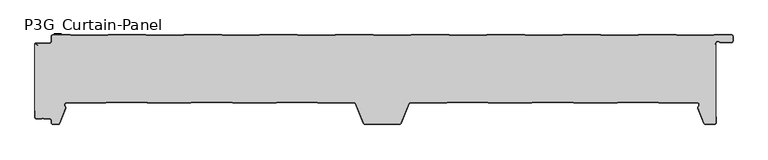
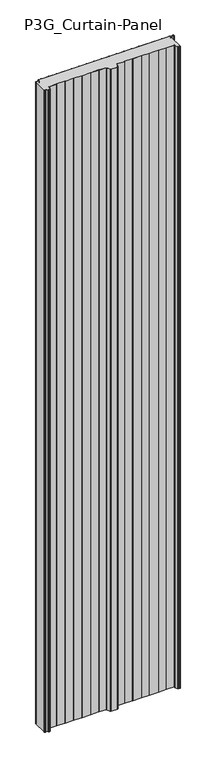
"""IFC4 building model written with IfcOpenShell, lengths in millimetres: plate geometry, P3G_Curtain-Panel : ACH_P3G_3-Rib-Roof-Panel_100M."""

import ifcopenshell
import ifcopenshell.guid

model = None  # the IFC model being written
_history = None  # IfcOwnerHistory: only IFC2X3 demands one
_inside = {}  # id of a spatial element -> (the spatial element, [elements in it])
_under = {}  # id of a project, library or spatial element -> (it, [spatial elements below it])
_declared = {}  # id of a project -> (the project, [libraries it declares])
_typed = {}  # id of a type object -> (the type object, [elements of that type])
_made_of = {}  # id of a material, layer set ... -> (it, [elements and type objects made of it])


def new_model(schema):
    """Start an empty IFC model of exactly this schema.

    Asked for "IFC4X3", IfcOpenShell would pick the latest addendum, in which some entities
    have other attributes; the version numbers below select the first issue.
    IFC2X3 requires an IfcOwnerHistory on every rooted entity: one is made here for all.
    """
    global model, _history
    if schema == "IFC4X3":
        model = ifcopenshell.file(schema_version=(4, 3, 0, 0))
    else:
        model = ifcopenshell.file(schema=schema)
    _inside.clear()
    _under.clear()
    _declared.clear()
    _typed.clear()
    _made_of.clear()
    _history = None
    if model.schema == "IFC2X3":
        org = make("IfcOrganization", Name="unknown")
        user = make(
            "IfcPersonAndOrganization",
            ThePerson=make("IfcPerson", FamilyName="unknown"),
            TheOrganization=org,
        )
        app = make(
            "IfcApplication",
            ApplicationDeveloper=org,
            Version="unknown",
            ApplicationFullName="unknown",
            ApplicationIdentifier="unknown",
        )
        _history = make(
            "IfcOwnerHistory",
            OwningUser=user,
            OwningApplication=app,
            ChangeAction="ADDED",
            CreationDate=0,
        )
    return model


def make(cls, **values):
    """One entity of the class cls with the attributes given. An attribute that is None is left unset."""
    return model.create_entity(
        cls, **{name: value for name, value in values.items() if value is not None}
    )


def rooted(cls, **values):
    """An entity with a GlobalId (a new one), such as an element, a storey or a relation."""
    return make(cls, GlobalId=ifcopenshell.guid.new(), OwnerHistory=_history, **values)


def si_unit(unit_type, name, prefix=None):
    """IfcSIUnit, for example si_unit("LENGTHUNIT", "METRE", prefix="MILLI")."""
    return make("IfcSIUnit", UnitType=unit_type, Prefix=prefix, Name=name)


def assignment(units):
    """IfcUnitAssignment: the units of a project."""
    return None if units is None else make("IfcUnitAssignment", Units=units)


def point(xyz):
    """IfcCartesianPoint."""
    return None if xyz is None else make("IfcCartesianPoint", Coordinates=xyz)


def direction(xyz):
    """IfcDirection."""
    return None if xyz is None else make("IfcDirection", DirectionRatios=xyz)


def frame(location, z_axis=None, x_axis=None):
    """IfcAxis2Placement3D, a coordinate frame: its origin and axes. An axis left out is left unset."""
    return make(
        "IfcAxis2Placement3D",
        Location=point(location),
        Axis=direction(z_axis),
        RefDirection=direction(x_axis),
    )


def frame_2d(location, x_axis=None):
    """IfcAxis2Placement2D, a coordinate frame in the plane: its origin and x axis."""
    return make(
        "IfcAxis2Placement2D", Location=point(location), RefDirection=direction(x_axis)
    )


def origin():
    """The frame at (0, 0, 0) with its axes left unset."""
    return frame((0.0, 0.0, 0.0))


def origin_with_axes():
    """The frame at (0, 0, 0) with the z axis (0, 0, 1) and the x axis (1, 0, 0) written out."""
    return frame((0.0, 0.0, 0.0), z_axis=(0.0, 0.0, 1.0), x_axis=(1.0, 0.0, 0.0))


def place(relative_to, where):
    """IfcLocalPlacement: puts the frame where relative to a parent placement (None: the world)."""
    return make(
        "IfcLocalPlacement", PlacementRelTo=relative_to, RelativePlacement=where
    )


def context(
    kind, dimensions, precision=None, world=None, true_north=None, identifier=None
):
    """IfcGeometricRepresentationContext, for example the 3D "Model" context."""
    return make(
        "IfcGeometricRepresentationContext",
        ContextIdentifier=identifier,
        ContextType=kind,
        CoordinateSpaceDimension=dimensions,
        Precision=precision,
        WorldCoordinateSystem=world,
        TrueNorth=true_north,
    )


def project(units=None, contexts=None):
    """IfcProject with its units and contexts."""
    return rooted(
        "IfcProject",
        Name="project",
        RepresentationContexts=contexts,
        UnitsInContext=assignment(units),
    )


def spatial(cls, under=None, at=None, **own):
    """A site, building, storey or space (cls), placed at a placement, below another one or the project."""
    s = rooted(cls, ObjectPlacement=at, **own)
    if under is not None:
        _under.setdefault(under.id(), (under, []))[1].append(s)
    return s


def polyline(points):
    """IfcPolyline through the points."""
    return make("IfcPolyline", Points=[point(p) for p in points])


def circle_curve(where, radius):
    """IfcCircle in the frame where."""
    return make("IfcCircle", Position=where, Radius=radius)


def trimmed(basis, trim1, trim2, sense, master):
    """IfcTrimmedCurve: the piece of a basis curve between two trims."""
    return make(
        "IfcTrimmedCurve",
        BasisCurve=basis,
        Trim1=trim1,
        Trim2=trim2,
        SenseAgreement=sense,
        MasterRepresentation=master,
    )


def segment(curve, same_sense, transition):
    """IfcCompositeCurveSegment."""
    return make(
        "IfcCompositeCurveSegment",
        Transition=transition,
        SameSense=same_sense,
        ParentCurve=curve,
    )


def composite_curve(segments, self_intersect=None):
    """IfcCompositeCurve: segments joined end to end."""
    return make("IfcCompositeCurve", Segments=segments, SelfIntersect=self_intersect)


def outline(outer, holes=None, kind="AREA"):
    """IfcArbitraryClosedProfileDef: a profile drawn as a closed curve; with holes, ...WithVoids."""
    if holes is None:
        return make("IfcArbitraryClosedProfileDef", ProfileType=kind, OuterCurve=outer)
    return make(
        "IfcArbitraryProfileDefWithVoids",
        ProfileType=kind,
        OuterCurve=outer,
        InnerCurves=holes,
    )


def extrude(swept, where, along, depth):
    """IfcExtrudedAreaSolid: the profile swept, set in the frame where, extruded along a direction by depth."""
    return make(
        "IfcExtrudedAreaSolid",
        SweptArea=swept,
        Position=where,
        ExtrudedDirection=direction(along),
        Depth=depth,
    )


def shape(context_of_items, identifier, shape_type, items):
    """IfcShapeRepresentation: the items that make up one representation, for example the "Body"."""
    return make(
        "IfcShapeRepresentation",
        ContextOfItems=context_of_items,
        RepresentationIdentifier=identifier,
        RepresentationType=shape_type,
        Items=items,
    )


def source(mapping_origin, context_of_items, identifier, shape_type, items):
    """IfcRepresentationMap: a shape defined once, which mapped items show again and again."""
    return make(
        "IfcRepresentationMap",
        MappingOrigin=mapping_origin,
        MappedRepresentation=shape(context_of_items, identifier, shape_type, items),
    )


def transform(
    local_origin,
    x_axis=None,
    y_axis=None,
    z_axis=None,
    scale=None,
    scale2=None,
    scale3=None,
    uniform=True,
):
    """IfcCartesianTransformationOperator3D, or its non-uniform kind. x_axis, y_axis, z_axis: its Axis1, 2, 3."""
    if uniform:
        return make(
            "IfcCartesianTransformationOperator3D",
            Axis1=direction(x_axis),
            Axis2=direction(y_axis),
            LocalOrigin=point(local_origin),
            Scale=scale,
            Axis3=direction(z_axis),
        )
    return make(
        "IfcCartesianTransformationOperator3DnonUniform",
        Axis1=direction(x_axis),
        Axis2=direction(y_axis),
        LocalOrigin=point(local_origin),
        Scale=scale,
        Axis3=direction(z_axis),
        Scale2=scale2,
        Scale3=scale3,
    )


def mapped(mapping_source, mapping_target):
    """IfcMappedItem: shows the shape of a source again, moved by a transform."""
    return make(
        "IfcMappedItem", MappingSource=mapping_source, MappingTarget=mapping_target
    )


def made_of(thing, what):
    """Note that an element or type object is made of a material, layer set ...; save() writes the relation."""
    if what is not None:
        _made_of.setdefault(what.id(), (what, []))[1].append(thing)
    return thing


def element(
    cls,
    number,
    at=None,
    inside=None,
    cuts=None,
    type_object=None,
    material=None,
    context=None,
    identifier="Body",
    shape_type=None,
    held_by="IfcProductDefinitionShape",
    body=None,
    shapes=None,
    **own,
):
    """One element of the class cls, such as IfcWall. Its Tag is "e" and its number.

    at: its placement. inside: the storey or other place that contains it. cuts: it is an
    opening in that element (IfcRelVoidsElement). A single representation is given by context,
    identifier, shape_type and body (its items); several are given by shapes. held_by: the class
    of the entity that holds the representations. save() writes the other relations.
    """
    e = rooted(cls, Tag="e%d" % number, ObjectPlacement=at, **own)
    if body is not None:
        shapes = [shape(context, identifier, shape_type, body)]
    if shapes is not None:
        e.Representation = make(held_by, Representations=shapes)
    if inside is not None:
        _inside.setdefault(inside.id(), (inside, []))[1].append(e)
    if cuts is not None:
        rooted(
            "IfcRelVoidsElement", RelatingBuildingElement=cuts, RelatedOpeningElement=e
        )
    if type_object is not None:
        _typed.setdefault(type_object.id(), (type_object, []))[1].append(e)
    return made_of(e, material)


def aggregate(whole, parts):
    """IfcRelAggregates: a whole, such as a stair, and the parts it consists of."""
    return rooted("IfcRelAggregates", RelatingObject=whole, RelatedObjects=parts)


def save(model, path):
    """Write the relations noted so far, then the file.

    IfcRelAggregates (storeys below a building ...), IfcRelContainedInSpatialStructure (elements
    in a storey), IfcRelDefinesByType, IfcRelAssociatesMaterial and IfcRelDeclares: one each for
    every whole, place, type object, material and project.
    """
    for whole, parts in _under.values():
        aggregate(whole, parts)
    for where, things in _inside.values():
        rooted(
            "IfcRelContainedInSpatialStructure",
            RelatedElements=things,
            RelatingStructure=where,
        )
    for kind, things in _typed.values():
        rooted("IfcRelDefinesByType", RelatedObjects=things, RelatingType=kind)
    for what, things in _made_of.values():
        rooted("IfcRelAssociatesMaterial", RelatedObjects=things, RelatingMaterial=what)
    for by, libraries in _declared.values():
        rooted("IfcRelDeclares", RelatingContext=by, RelatedDefinitions=libraries)
    model.write(path)


def p3g_curtain_panel_d6166cbf(model_context):
    return source(origin(), model_context, "Body", "SweptSolid", [
        extrude(outline(composite_curve([segment(trimmed(circle_curve(frame_2d((-13.0, -498.996875)), 1.0), [point((-13.8660254, -499.496875))], [point((-13.0, -499.996875))], True, "CARTESIAN"), True, "CONTINUOUS"), segment(polyline([(-13.0, -499.996875), (-111.18, -499.996875), (-111.18, -499.196875), (-121.5, -499.196875)]), True, "CONTINUOUS"), segment(trimmed(circle_curve(frame_2d((-121.5, -497.496875)), 1.7), [point((-121.5, -499.196875))], [point((-123.2, -497.496875))], False, "CARTESIAN"), True, "CONTINUOUS"), segment(polyline([(-123.2, -497.496875), (-123.2, -490.3942416)]), True, "CONTINUOUS"), segment(trimmed(circle_curve(frame_2d((-124.5, -488.496875)), 2.3), [point((-123.2, -490.3942416))], [point((-123.2, -486.5995084))], True, "CARTESIAN"), True, "CONTINUOUS"), segment(polyline([(-123.2, -486.5995084), (-123.2, -477.996875)]), True, "CONTINUOUS"), segment(trimmed(circle_curve(frame_2d((-126.0, -477.996875)), 2.8), [point((-123.2, -477.996875))], [point((-126.0, -475.196875))], True, "CARTESIAN"), True, "CONTINUOUS"), segment(polyline([(-126.0, -475.196875), (-129.5, -475.196875)]), True, "CONTINUOUS"), segment(trimmed(circle_curve(frame_2d((-129.5, -473.496875)), 1.7), [point((-129.5, -475.196875))], [point((-131.2, -473.496875))], False, "CARTESIAN"), True, "CONTINUOUS"), segment(polyline([(-131.2, -473.496875), (-131.2, -466.0601463)]), True, "CONTINUOUS"), segment(trimmed(circle_curve(frame_2d((-129.5, -466.0601463)), 1.7), [point((-131.2, -466.0601463))], [point((-130.1368312, -464.4839337))], False, "CARTESIAN"), True, "CONTINUOUS"), segment(polyline([(-130.1368312, -464.4839337), (-107.838756, -455.4749266)]), True, "CONTINUOUS"), segment(trimmed(circle_curve(frame_2d((-107.2019248, -457.0511391)), 1.7), [point((-107.838756, -455.4749266))], [point((-105.9566976, -455.8938106))], False, "CARTESIAN"), True, "CONTINUOUS"), segment(trimmed(circle_curve(frame_2d((-103.1, -453.2387629)), 3.9), [point((-105.9566976, -455.8938106))], [point((-99.2, -453.2387629))], True, "CARTESIAN"), True, "CONTINUOUS"), segment(polyline([(-99.2, -453.2387629), (-99.2, -396.299675), (-98.6, -395.3011073), (-98.6, -335.8523119), (-99.2, -334.8548119), (-99.2, -271.2989381), (-98.6, -270.3014381), (-98.6, -210.8523119), (-99.2, -209.8548119), (-99.2, -146.2989381), (-98.6, -145.3014381), (-98.6, -85.8523119), (-99.2, -84.8548119), (-99.2, -31.8104547)]), True, "CONTINUOUS"), segment(trimmed(circle_curve(frame_2d((-102.0, -31.8104547)), 2.8), [point((-99.2, -31.8104547))], [point((-100.9511015, -29.2143399))], True, "CARTESIAN"), True, "CONTINUOUS"), segment(polyline([(-100.9511015, -29.2143399), (-129.8241345, -17.5488774)]), True, "CONTINUOUS"), segment(trimmed(circle_curve(frame_2d((-129.0, -15.5090729)), 2.2), [point((-129.8241345, -17.5488774))], [point((-131.2, -15.5090729))], False, "CARTESIAN"), True, "CONTINUOUS"), segment(polyline([(-131.2, -15.5090729), (-131.2, 34.4353229)]), True, "CONTINUOUS"), segment(trimmed(circle_curve(frame_2d((-129.0, 34.4353229)), 2.2), [point((-131.2, 34.4353229))], [point((-129.8241345, 36.4751274))], False, "CARTESIAN"), True, "CONTINUOUS"), segment(polyline([(-129.8241345, 36.4751274), (-100.9511015, 48.1405899)]), True, "CONTINUOUS"), segment(trimmed(circle_curve(frame_2d((-102.0, 50.7367047)), 2.8), [point((-100.9511015, 48.1405899))], [point((-99.2, 50.7367047))], True, "CARTESIAN"), True, "CONTINUOUS"), segment(polyline([(-99.2, 50.7367047), (-99.2, 103.780325), (-98.6, 104.7788927), (-98.6, 164.2273573), (-99.2, 165.225925), (-99.2, 228.7810108), (-98.6, 229.7795785), (-98.6, 289.2266715), (-99.2, 290.2252392), (-99.2, 353.7810619), (-98.6, 354.7785619), (-98.6, 414.2276881), (-99.2, 415.2251881), (-99.2, 470.7880129)]), True, "CONTINUOUS"), segment(trimmed(circle_curve(frame_2d((-103.1, 470.7880129)), 3.9), [point((-99.2, 470.7880129))], [point((-105.9566976, 473.4430606))], True, "CARTESIAN"), True, "CONTINUOUS"), segment(trimmed(circle_curve(frame_2d((-107.2019248, 474.6003891)), 1.7), [point((-105.9566976, 473.4430606))], [point((-107.838756, 473.0241766))], False, "CARTESIAN"), True, "CONTINUOUS"), segment(polyline([(-107.838756, 473.0241766), (-130.1368312, 482.0331837)]), True, "CONTINUOUS"), segment(trimmed(circle_curve(frame_2d((-129.5, 483.6093963)), 1.7), [point((-130.1368312, 482.0331837))], [point((-131.2, 483.6093963))], False, "CARTESIAN"), True, "CONTINUOUS"), segment(polyline([(-131.2, 483.6093963), (-131.2, 496.503125)]), True, "CONTINUOUS"), segment(trimmed(circle_curve(frame_2d((-129.5, 496.503125)), 1.7), [point((-131.2, 496.503125))], [point((-129.5, 498.203125))], False, "CARTESIAN"), True, "CONTINUOUS"), segment(polyline([(-129.5, 498.203125), (-13.391322, 498.203125), (-14.3550504, 497.8523566)]), True, "CONTINUOUS"), segment(trimmed(circle_curve(frame_2d((-13.5, 495.503125)), 2.5), [point((-14.3550504, 497.8523566))], [point((-16.0, 495.503125))], True, "CARTESIAN"), True, "CONTINUOUS"), segment(polyline([(-16.0, 495.503125), (-16.0, 490.503125), (-15.2, 490.503125), (-15.2, 495.503125)]), True, "CONTINUOUS"), segment(trimmed(circle_curve(frame_2d((-13.5, 495.503125)), 1.7), [point((-15.2, 495.503125))], [point((-14.0814342, 497.1006025))], False, "CARTESIAN"), True, "CONTINUOUS"), segment(polyline([(-14.0814342, 497.1006025), (-12.0293134, 497.8475134)]), True, "CONTINUOUS"), segment(trimmed(circle_curve(frame_2d((-13.5, 501.8881916)), 4.3), [point((-12.0293134, 497.8475134))], [point((-10.275, 504.7323743))], True, "CARTESIAN"), True, "CONTINUOUS"), segment(trimmed(circle_curve(frame_2d((-9.0, 505.8568186)), 1.7), [point((-10.275, 504.7323743))], [point((-10.7, 505.8568186))], False, "CARTESIAN"), True, "CONTINUOUS"), segment(polyline([(-10.7, 505.8568186), (-10.7, 521.503125)]), True, "CONTINUOUS"), segment(trimmed(circle_curve(frame_2d((-9.0, 521.503125)), 1.7), [point((-10.7, 521.503125))], [point((-9.0, 523.203125))], False, "CARTESIAN"), True, "CONTINUOUS"), segment(polyline([(-9.0, 523.203125), (-2.5, 523.203125)]), True, "CONTINUOUS"), segment(trimmed(circle_curve(frame_2d((-2.5, 521.503125)), 1.7), [point((-2.5, 523.203125))], [point((-0.8, 521.503125))], False, "CARTESIAN"), True, "CONTINUOUS"), segment(polyline([(-0.8, 521.503125), (-0.8, 496.4476092), (-1.4, 495.4501092), (-1.4, 441.4461408), (-0.8, 440.4486408), (-0.8, 385.3376092), (-1.4, 384.3401092), (-1.4, 330.3361408), (-0.8, 329.3386408), (-0.8, 274.2276092), (-1.4, 273.2301092), (-1.4, 219.2261408), (-0.8, 218.2286408), (-0.8, 163.1176092), (-1.4, 162.1201092), (-1.4, 108.1161408), (-0.8, 107.1186408), (-0.8, 52.0076092), (-1.4, 51.0101092), (-1.4, -2.9938592), (-0.8, -3.9913592), (-0.8, -59.1023908), (-1.4, -60.0998908), (-1.4, -114.1038592), (-0.8, -115.1013592), (-0.8, -170.2123908), (-1.4, -171.2098908), (-1.4, -225.2138592), (-0.8, -226.2113592), (-0.8, -281.3223908), (-1.4, -282.3198908), (-1.4, -336.3238592), (-0.8, -337.3213592), (-0.8, -392.4323908), (-1.4, -393.4298908), (-1.4, -447.4338592), (-0.8, -448.4313592), (-0.8, -473.496875)]), True, "CONTINUOUS"), segment(trimmed(circle_curve(frame_2d((-2.5, -473.496875)), 1.7), [point((-0.8, -473.496875))], [point((-2.5, -475.196875))], False, "CARTESIAN"), True, "CONTINUOUS"), segment(polyline([(-2.5, -475.196875), (-10.0, -475.196875)]), True, "CONTINUOUS"), segment(trimmed(circle_curve(frame_2d((-10.0, -477.996875)), 2.8), [point((-10.0, -475.196875))], [point((-12.8, -477.996875))], True, "CARTESIAN"), True, "CONTINUOUS"), segment(polyline([(-12.8, -477.996875), (-12.8, -497.8772598)]), True, "CONTINUOUS"), segment(trimmed(circle_curve(frame_2d((-13.3, -497.8772598)), 0.5), [point((-12.8, -497.8772598))], [point((-13.7330127, -498.1272598))], False, "CARTESIAN"), True, "CONTINUOUS"), segment(polyline([(-13.7330127, -498.1272598), (-15.4826062, -495.096875), (-16.1754265, -495.496875), (-13.8660254, -499.496875)]), True, "CONTINUOUS")], self_intersect=False)), frame((0.0, 0.0, 5000.0), z_axis=(0.0, 0.0, -1.0), x_axis=(0.0, 1.0, 0.0)), (0.0, 0.0, 1.0), 5000.0),
        extrude(outline(composite_curve([segment(trimmed(circle_curve(frame_2d((-478.0, -10.0)), 2.0), [point((-478.0, -12.0))], [point((-476.0, -10.0))], True, "CARTESIAN"), True, "CONTINUOUS"), segment(polyline([(-476.0, -10.0), (-476.0, -2.5)]), True, "CONTINUOUS"), segment(trimmed(circle_curve(frame_2d((-473.5, -2.5)), 2.5), [point((-476.0, -2.5))], [point((-473.5, 0.0))], False, "CARTESIAN"), True, "CONTINUOUS"), segment(polyline([(-473.5, 0.0), (-448.2124211, 0.0), (-447.2149211, -0.6), (-393.6550789, -0.6), (-392.6575789, 0.0), (-337.1024211, 0.0), (-336.1049211, -0.6), (-282.5450789, -0.6), (-281.5475789, 0.0), (-225.9924211, 0.0), (-224.9949211, -0.6), (-171.4350789, -0.6), (-170.4375789, 0.0), (-114.8824211, 0.0), (-113.8849211, -0.6), (-60.3250789, -0.6), (-59.3275789, 0.0), (-3.7724211, 0.0), (-2.7749211, -0.6), (50.7849211, -0.6), (51.7824211, 0.0), (107.3375789, 0.0), (108.3350789, -0.6), (161.8949211, -0.6), (162.8924211, 0.0), (218.4475789, 0.0), (219.4450789, -0.6), (273.0049211, -0.6), (274.0024211, 0.0), (329.5575789, 0.0), (330.5550789, -0.6), (384.1149211, -0.6), (385.1124211, 0.0), (440.6675789, 0.0), (441.6650789, -0.6), (495.2249211, -0.6), (496.2224211, 0.0), (521.5, 0.0)]), True, "CONTINUOUS"), segment(trimmed(circle_curve(frame_2d((521.5, -2.5)), 2.5), [point((521.5, 0.0))], [point((524.0, -2.5))], False, "CARTESIAN"), True, "CONTINUOUS"), segment(polyline([(524.0, -2.5), (524.0, -9.0)]), True, "CONTINUOUS"), segment(trimmed(circle_curve(frame_2d((521.5, -9.0)), 2.5), [point((524.0, -9.0))], [point((521.5, -11.5))], False, "CARTESIAN"), True, "CONTINUOUS"), segment(polyline([(521.5, -11.5), (505.8536936, -11.5)]), True, "CONTINUOUS"), segment(trimmed(circle_curve(frame_2d((505.8536936, -9.0)), 2.5), [point((505.8536936, -11.5))], [point((504.200099, -10.875))], False, "CARTESIAN"), True, "CONTINUOUS"), segment(trimmed(circle_curve(frame_2d((501.8850666, -13.5)), 3.5), [point((504.200099, -10.875))], [point((498.5961425, -12.3029295))], True, "CARTESIAN"), True, "CONTINUOUS"), segment(polyline([(498.5961425, -12.3029295), (497.8492316, -14.3550504)]), True, "CONTINUOUS"), segment(trimmed(circle_curve(frame_2d((495.5, -13.5)), 2.5), [point((497.8492316, -14.3550504))], [point((495.5, -16.0))], False, "CARTESIAN"), True, "CONTINUOUS"), segment(polyline([(495.5, -16.0), (490.5, -16.0), (490.5, -15.2), (495.5, -15.2)]), True, "CONTINUOUS"), segment(trimmed(circle_curve(frame_2d((495.5, -13.5)), 1.7), [point((495.5, -15.2))], [point((497.0974775, -14.0814342))], True, "CARTESIAN"), True, "CONTINUOUS"), segment(polyline([(497.0974775, -14.0814342), (497.8443884, -12.0293134)]), True, "CONTINUOUS"), segment(trimmed(circle_curve(frame_2d((501.8850666, -13.5)), 4.3), [point((497.8443884, -12.0293134))], [point((504.7292493, -10.275))], False, "CARTESIAN"), True, "CONTINUOUS"), segment(trimmed(circle_curve(frame_2d((505.8536936, -9.0)), 1.7), [point((504.7292493, -10.275))], [point((505.8536936, -10.7))], True, "CARTESIAN"), True, "CONTINUOUS"), segment(polyline([(505.8536936, -10.7), (521.5, -10.7)]), True, "CONTINUOUS"), segment(trimmed(circle_curve(frame_2d((521.5, -9.0)), 1.7), [point((521.5, -10.7))], [point((523.2, -9.0))], True, "CARTESIAN"), True, "CONTINUOUS"), segment(polyline([(523.2, -9.0), (523.2, -2.5)]), True, "CONTINUOUS"), segment(trimmed(circle_curve(frame_2d((521.5, -2.5)), 1.7), [point((523.2, -2.5))], [point((521.5, -0.8))], True, "CARTESIAN"), True, "CONTINUOUS"), segment(polyline([(521.5, -0.8), (496.4444842, -0.8), (495.4469842, -1.4), (441.4430158, -1.4), (440.4455158, -0.8), (385.3344842, -0.8), (384.3369842, -1.4), (330.3330158, -1.4), (329.3355158, -0.8), (274.2244842, -0.8), (273.2269842, -1.4), (219.2230158, -1.4), (218.2255158, -0.8), (163.1144842, -0.8), (162.1169842, -1.4), (108.1130158, -1.4), (107.1155158, -0.8), (52.0044842, -0.8), (51.0069842, -1.4), (-2.9969842, -1.4), (-3.9944842, -0.8), (-59.1055158, -0.8), (-60.1030158, -1.4), (-114.1069842, -1.4), (-115.1044842, -0.8), (-170.2155158, -0.8), (-171.2130158, -1.4), (-225.2169842, -1.4), (-226.2144842, -0.8), (-281.3255158, -0.8), (-282.3230158, -1.4), (-336.3269842, -1.4), (-337.3244842, -0.8), (-392.4355158, -0.8), (-393.4330158, -1.4), (-447.4369842, -1.4), (-448.4344842, -0.8), (-473.5, -0.8)]), True, "CONTINUOUS"), segment(trimmed(circle_curve(frame_2d((-473.5, -2.5)), 1.7), [point((-473.5, -0.8))], [point((-475.2, -2.5))], True, "CARTESIAN"), True, "CONTINUOUS"), segment(polyline([(-475.2, -2.5), (-475.2, -10.0)]), True, "CONTINUOUS"), segment(trimmed(circle_curve(frame_2d((-478.0, -10.0)), 2.8), [point((-475.2, -10.0))], [point((-478.0, -12.8))], False, "CARTESIAN"), True, "CONTINUOUS"), segment(polyline([(-478.0, -12.8), (-497.8803848, -12.8)]), True, "CONTINUOUS"), segment(trimmed(circle_curve(frame_2d((-497.8803848, -13.3)), 0.5), [point((-497.8803848, -12.8))], [point((-498.1303848, -13.7330127))], True, "CARTESIAN"), True, "CONTINUOUS"), segment(polyline([(-498.1303848, -13.7330127), (-495.1, -15.4826062), (-495.5, -16.1754265), (-499.5, -13.8660254)]), True, "CONTINUOUS"), segment(trimmed(circle_curve(frame_2d((-499.0, -13.0)), 1.0), [point((-499.5, -13.8660254))], [point((-499.0, -12.0))], False, "CARTESIAN"), True, "CONTINUOUS"), segment(polyline([(-499.0, -12.0), (-478.0, -12.0)]), True, "CONTINUOUS")], self_intersect=False)), origin_with_axes(), (0.0, 0.0, 1.0), 5000.0),
        extrude(outline(composite_curve([segment(polyline([(-500.0, -121.5), (-500.0, -111.18), (-499.2, -111.18), (-499.2, -121.5)]), True, "CONTINUOUS"), segment(trimmed(circle_curve(frame_2d((-497.5, -121.5)), 1.7), [point((-499.2, -121.5))], [point((-497.5, -123.2))], True, "CARTESIAN"), True, "CONTINUOUS"), segment(polyline([(-497.5, -123.2), (-490.3973666, -123.2)]), True, "CONTINUOUS"), segment(trimmed(circle_curve(frame_2d((-488.5, -124.5)), 2.3), [point((-490.3973666, -123.2))], [point((-486.6026334, -123.2))], False, "CARTESIAN"), True, "CONTINUOUS"), segment(polyline([(-486.6026334, -123.2), (-478.0, -123.2)]), True, "CONTINUOUS"), segment(trimmed(circle_curve(frame_2d((-478.0, -126.0)), 2.8), [point((-478.0, -123.2))], [point((-475.2, -126.0))], False, "CARTESIAN"), True, "CONTINUOUS"), segment(polyline([(-475.2, -126.0), (-475.2, -129.5)]), True, "CONTINUOUS"), segment(trimmed(circle_curve(frame_2d((-473.5, -129.5)), 1.7), [point((-475.2, -129.5))], [point((-473.5, -131.2))], True, "CARTESIAN"), True, "CONTINUOUS"), segment(polyline([(-473.5, -131.2), (-466.0632713, -131.2)]), True, "CONTINUOUS"), segment(trimmed(circle_curve(frame_2d((-466.0632713, -129.5)), 1.7), [point((-466.0632713, -131.2))], [point((-464.4870587, -130.1368312))], True, "CARTESIAN"), True, "CONTINUOUS"), segment(polyline([(-464.4870587, -130.1368312), (-455.4780516, -107.838756)]), True, "CONTINUOUS"), segment(trimmed(circle_curve(frame_2d((-457.0542641, -107.2019248)), 1.7), [point((-455.4780516, -107.838756))], [point((-455.8969356, -105.9566976))], True, "CARTESIAN"), True, "CONTINUOUS"), segment(trimmed(circle_curve(frame_2d((-453.2418879, -103.1)), 3.9), [point((-455.8969356, -105.9566976))], [point((-453.2418879, -99.2))], False, "CARTESIAN"), True, "CONTINUOUS"), segment(polyline([(-453.2418879, -99.2), (-396.3028, -99.2), (-395.3042323, -98.6), (-335.8554369, -98.6), (-334.8579369, -99.2), (-271.3020631, -99.2), (-270.3045631, -98.6), (-210.8554369, -98.6), (-209.8579369, -99.2), (-146.3020631, -99.2), (-145.3045631, -98.6), (-85.8554369, -98.6), (-84.8579369, -99.2), (-31.8135797, -99.2)]), True, "CONTINUOUS"), segment(trimmed(circle_curve(frame_2d((-31.8135797, -102.0)), 2.8), [point((-31.8135797, -99.2))], [point((-29.2174649, -100.9511015))], False, "CARTESIAN"), True, "CONTINUOUS"), segment(polyline([(-29.2174649, -100.9511015), (-17.5520024, -129.8241345)]), True, "CONTINUOUS"), segment(trimmed(circle_curve(frame_2d((-15.5121979, -129.0)), 2.2), [point((-17.5520024, -129.8241345))], [point((-15.5121979, -131.2))], True, "CARTESIAN"), True, "CONTINUOUS"), segment(polyline([(-15.5121979, -131.2), (34.4321979, -131.2)]), True, "CONTINUOUS"), segment(trimmed(circle_curve(frame_2d((34.4321979, -129.0)), 2.2), [point((34.4321979, -131.2))], [point((36.4720024, -129.8241345))], True, "CARTESIAN"), True, "CONTINUOUS"), segment(polyline([(36.4720024, -129.8241345), (48.1374649, -100.9511015)]), True, "CONTINUOUS"), segment(trimmed(circle_curve(frame_2d((50.7335797, -102.0)), 2.8), [point((48.1374649, -100.9511015))], [point((50.7335797, -99.2))], False, "CARTESIAN"), True, "CONTINUOUS"), segment(polyline([(50.7335797, -99.2), (103.7772, -99.2), (104.7757677, -98.6), (164.2242323, -98.6), (165.2228, -99.2), (228.7778858, -99.2), (229.7764535, -98.6), (289.2235465, -98.6), (290.2221142, -99.2), (353.7779369, -99.2), (354.7754369, -98.6), (414.2245631, -98.6), (415.2220631, -99.2), (470.7848879, -99.2)]), True, "CONTINUOUS"), segment(trimmed(circle_curve(frame_2d((470.7848879, -103.1)), 3.9), [point((470.7848879, -99.2))], [point((473.4399356, -105.9566976))], False, "CARTESIAN"), True, "CONTINUOUS"), segment(trimmed(circle_curve(frame_2d((474.5972641, -107.2019248)), 1.7), [point((473.4399356, -105.9566976))], [point((473.0210516, -107.838756))], True, "CARTESIAN"), True, "CONTINUOUS"), segment(polyline([(473.0210516, -107.838756), (482.0300587, -130.1368312)]), True, "CONTINUOUS"), segment(trimmed(circle_curve(frame_2d((483.6062713, -129.5)), 1.7), [point((482.0300587, -130.1368312))], [point((483.6062713, -131.2))], True, "CARTESIAN"), True, "CONTINUOUS"), segment(polyline([(483.6062713, -131.2), (496.5, -131.2)]), True, "CONTINUOUS"), segment(trimmed(circle_curve(frame_2d((496.5, -129.5)), 1.7), [point((496.5, -131.2))], [point((498.2, -129.5))], True, "CARTESIAN"), True, "CONTINUOUS"), segment(polyline([(498.2, -129.5), (498.2, -121.0), (499.0, -121.0), (499.0, -129.5)]), True, "CONTINUOUS"), segment(trimmed(circle_curve(frame_2d((496.5, -129.5)), 2.5), [point((499.0, -129.5))], [point((496.5, -132.0))], False, "CARTESIAN"), True, "CONTINUOUS"), segment(polyline([(496.5, -132.0), (483.6062713, -132.0)]), True, "CONTINUOUS"), segment(trimmed(circle_curve(frame_2d((483.6062713, -129.5)), 2.5), [point((483.6062713, -132.0))], [point((481.2883117, -130.4365165))], False, "CARTESIAN"), True, "CONTINUOUS"), segment(polyline([(481.2883117, -130.4365165), (472.2793045, -108.1384413)]), True, "CONTINUOUS"), segment(trimmed(circle_curve(frame_2d((474.5972641, -107.2019248)), 2.5), [point((472.2793045, -108.1384413))], [point((472.8953104, -105.3707084))], False, "CARTESIAN"), True, "CONTINUOUS"), segment(trimmed(circle_curve(frame_2d((470.7848879, -103.1)), 3.1), [point((472.8953104, -105.3707084))], [point((470.7848879, -100.0))], True, "CARTESIAN"), True, "CONTINUOUS"), segment(polyline([(470.7848879, -100.0), (415.0, -100.0), (414.0025, -99.4), (354.9975, -99.4), (354.0, -100.0), (290.0002546, -100.0), (289.0016869, -99.4), (229.9983131, -99.4), (228.9997454, -100.0), (165.0009404, -100.0), (164.0023727, -99.4), (104.9976273, -99.4), (103.9990596, -100.0), (50.7335797, -100.0)]), True, "CONTINUOUS"), segment(trimmed(circle_curve(frame_2d((50.7335797, -102.0)), 2.0), [point((50.7335797, -100.0))], [point((48.879212, -101.2507868))], True, "CARTESIAN"), True, "CONTINUOUS"), segment(polyline([(48.879212, -101.2507868), (37.2137494, -130.1238198)]), True, "CONTINUOUS"), segment(trimmed(circle_curve(frame_2d((34.4321979, -129.0)), 3.0), [point((37.2137494, -130.1238198))], [point((34.4321979, -132.0))], False, "CARTESIAN"), True, "CONTINUOUS"), segment(polyline([(34.4321979, -132.0), (-15.5121979, -132.0)]), True, "CONTINUOUS"), segment(trimmed(circle_curve(frame_2d((-15.5121979, -129.0)), 3.0), [point((-15.5121979, -132.0))], [point((-18.2937494, -130.1238198))], False, "CARTESIAN"), True, "CONTINUOUS"), segment(polyline([(-18.2937494, -130.1238198), (-29.959212, -101.2507868)]), True, "CONTINUOUS"), segment(trimmed(circle_curve(frame_2d((-31.8135797, -102.0)), 2.0), [point((-29.959212, -101.2507868))], [point((-31.8135797, -100.0))], True, "CARTESIAN"), True, "CONTINUOUS"), segment(polyline([(-31.8135797, -100.0), (-85.08, -100.0), (-86.0775, -99.4), (-145.0825, -99.4), (-146.08, -100.0), (-210.08, -100.0), (-211.0775, -99.4), (-270.0825, -99.4), (-271.08, -100.0), (-335.08, -100.0), (-336.0775, -99.4), (-395.0823727, -99.4), (-396.0809404, -100.0), (-453.2418879, -100.0)]), True, "CONTINUOUS"), segment(trimmed(circle_curve(frame_2d((-453.2418879, -103.1)), 3.1), [point((-453.2418879, -100.0))], [point((-455.3523104, -105.3707084))], True, "CARTESIAN"), True, "CONTINUOUS"), segment(trimmed(circle_curve(frame_2d((-457.0542641, -107.2019248)), 2.5), [point((-455.3523104, -105.3707084))], [point((-454.7363045, -108.1384413))], False, "CARTESIAN"), True, "CONTINUOUS"), segment(polyline([(-454.7363045, -108.1384413), (-463.7453117, -130.4365165)]), True, "CONTINUOUS"), segment(trimmed(circle_curve(frame_2d((-466.0632713, -129.5)), 2.5), [point((-463.7453117, -130.4365165))], [point((-466.0632713, -132.0))], False, "CARTESIAN"), True, "CONTINUOUS"), segment(polyline([(-466.0632713, -132.0), (-473.5, -132.0)]), True, "CONTINUOUS"), segment(trimmed(circle_curve(frame_2d((-473.5, -129.5)), 2.5), [point((-473.5, -132.0))], [point((-476.0, -129.5))], False, "CARTESIAN"), True, "CONTINUOUS"), segment(polyline([(-476.0, -129.5), (-476.0, -126.0)]), True, "CONTINUOUS"), segment(trimmed(circle_curve(frame_2d((-478.0, -126.0)), 2.0), [point((-476.0, -126.0))], [point((-478.0, -124.0))], True, "CARTESIAN"), True, "CONTINUOUS"), segment(polyline([(-478.0, -124.0), (-486.263932, -124.0)]), True, "CONTINUOUS"), segment(trimmed(circle_curve(frame_2d((-486.263932, -122.5)), 1.5), [point((-486.263932, -124.0))], [point((-487.381966, -123.5))], False, "CARTESIAN"), True, "CONTINUOUS"), segment(trimmed(circle_curve(frame_2d((-488.5, -124.5)), 1.5), [point((-487.381966, -123.5))], [point((-489.618034, -123.5))], True, "CARTESIAN"), True, "CONTINUOUS"), segment(trimmed(circle_curve(frame_2d((-490.736068, -122.5)), 1.5), [point((-489.618034, -123.5))], [point((-490.736068, -124.0))], False, "CARTESIAN"), True, "CONTINUOUS"), segment(polyline([(-490.736068, -124.0), (-497.5, -124.0)]), True, "CONTINUOUS"), segment(trimmed(circle_curve(frame_2d((-497.5, -121.5)), 2.5), [point((-497.5, -124.0))], [point((-500.0, -121.5))], False, "CARTESIAN"), True, "CONTINUOUS")], self_intersect=False)), origin_with_axes(), (0.0, 0.0, 1.0), 5000.0),
    ])


if __name__ == "__main__":
    model = new_model("IFC4")
    model_context = context("Model", 3, world=origin())
    ifc_project = project(units=[si_unit("LENGTHUNIT", "METRE", prefix="MILLI")], contexts=[model_context])
    site = spatial("IfcSite", under=ifc_project)
    building = spatial("IfcBuilding", under=site)
    placement = place(None, origin())
    p3g_curtain_panel_shape = p3g_curtain_panel_d6166cbf(model_context)
    element("IfcPlate", 1, ObjectType="P3G_Curtain-Panel : ACH_P3G_3-Rib-Roof-Panel_100M", at=placement, inside=building, context=model_context, shape_type="MappedRepresentation", body=[
        mapped(p3g_curtain_panel_shape, transform((0.0, 0.0, 0.0), x_axis=(1.0, 0.0, 0.0), y_axis=(0.0, 1.0, 0.0), z_axis=(0.0, 0.0, 1.0))),
    ])
    save(model, "model.ifc")
